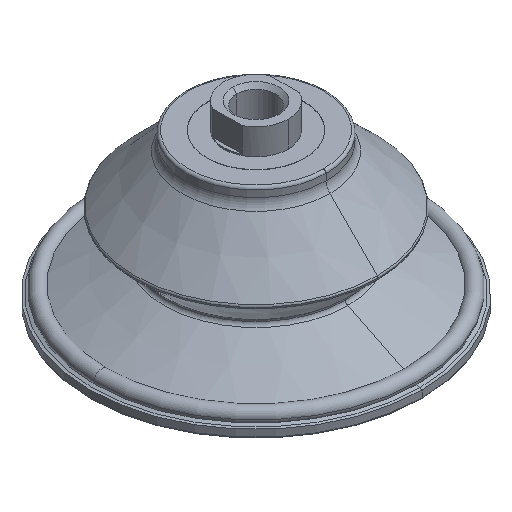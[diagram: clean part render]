
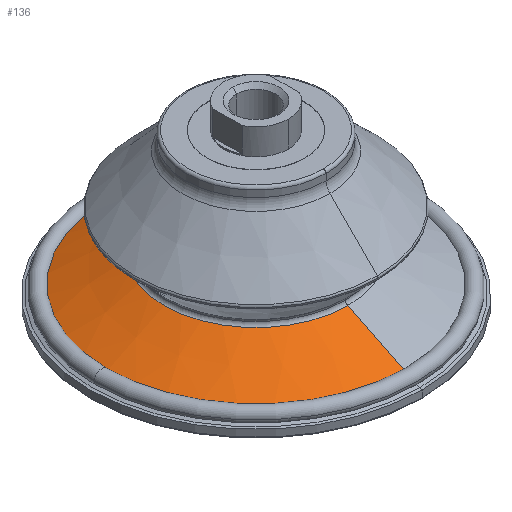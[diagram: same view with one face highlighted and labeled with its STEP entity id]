
A CAD part, isometric view. The second image highlights one B-rep face of the part: STEP entity #136.
In plain terms, the highlighted conical face has half-angle 64 degrees and reference radius 35.361 mm.
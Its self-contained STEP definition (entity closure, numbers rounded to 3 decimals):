
#136=ADVANCED_FACE('NONE',(#307),#308,.T.);
#307=FACE_OUTER_BOUND('',#517,.T.);
#308=CONICAL_SURFACE('',#518,35.361,1.117);
#517=EDGE_LOOP('',(#840,#841,#842,#843,#844));
#518=AXIS2_PLACEMENT_3D('',#845,#846,#847);
#840=ORIENTED_EDGE('',*,*,#1210,.T.);
#841=ORIENTED_EDGE('',*,*,#1292,.T.);
#842=ORIENTED_EDGE('',*,*,#1191,.F.);
#843=ORIENTED_EDGE('',*,*,#1205,.F.);
#844=ORIENTED_EDGE('',*,*,#1293,.F.);
#845=CARTESIAN_POINT('',(0.,0.,-50.757));
#846=DIRECTION('',(0.,0.,-1.0));
#847=DIRECTION('',(0.,-1.0,0.));
#1191=EDGE_CURVE('NONE',#1396,#1398,#1399,.T.);
#1205=EDGE_CURVE('NONE',#1417,#1396,#1419,.T.);
#1210=EDGE_CURVE('NONE',#1421,#1426,#1428,.T.);
#1292=EDGE_CURVE('NONE',#1426,#1398,#1550,.T.);
#1293=EDGE_CURVE('NONE',#1421,#1417,#1551,.T.);
#1396=VERTEX_POINT('NONE',#1680);
#1398=VERTEX_POINT('NONE',#1682);
#1399=CIRCLE('',#1683,56.983);
#1417=VERTEX_POINT('NONE',#1701);
#1419=CIRCLE('',#1703,56.983);
#1421=VERTEX_POINT('NONE',#1705);
#1426=VERTEX_POINT('NONE',#1710);
#1428=CIRCLE('',#1712,35.361);
#1550=LINE('',#1852,#1853);
#1551=LINE('',#1854,#1855);
#1680=CARTESIAN_POINT('',(-56.983,0.,-61.303));
#1682=CARTESIAN_POINT('',(0.,56.983,-61.303));
#1683=AXIS2_PLACEMENT_3D('',#2006,#2007,#2008);
#1701=CARTESIAN_POINT('',(0.,-56.983,-61.303));
#1703=AXIS2_PLACEMENT_3D('',#2039,#2040,#2041);
#1705=CARTESIAN_POINT('',(0.,-35.361,-50.757));
#1710=CARTESIAN_POINT('',(0.,35.361,-50.757));
#1712=AXIS2_PLACEMENT_3D('',#2051,#2052,#2053);
#1852=CARTESIAN_POINT('',(0.,35.361,-50.757));
#1853=VECTOR('',#2204,1000.0);
#1854=CARTESIAN_POINT('',(0.,-35.361,-50.757));
#1855=VECTOR('',#2205,1000.0);
#2006=CARTESIAN_POINT('',(0.,0.,-61.303));
#2007=DIRECTION('',(0.,0.,-1.0));
#2008=DIRECTION('',(0.0,-1.0,0.));
#2039=CARTESIAN_POINT('',(0.,0.,-61.303));
#2040=DIRECTION('',(0.,0.,-1.0));
#2041=DIRECTION('',(0.0,-1.0,0.));
#2051=CARTESIAN_POINT('',(0.,0.,-50.757));
#2052=DIRECTION('',(0.,0.,-1.0));
#2053=DIRECTION('',(0.,-1.0,0.));
#2204=DIRECTION('',(0.,0.899,-0.438));
#2205=DIRECTION('',(0.,-0.899,-0.438));
